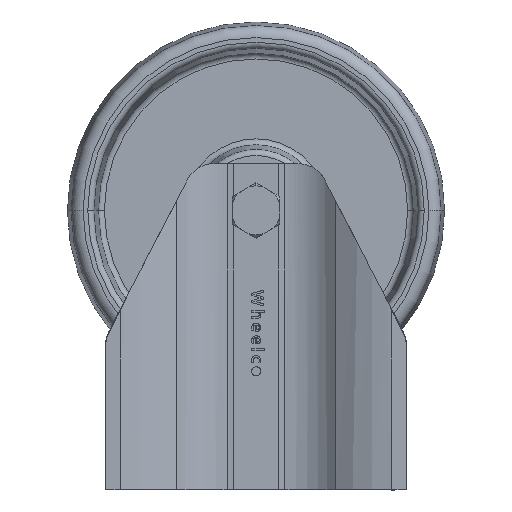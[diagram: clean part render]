
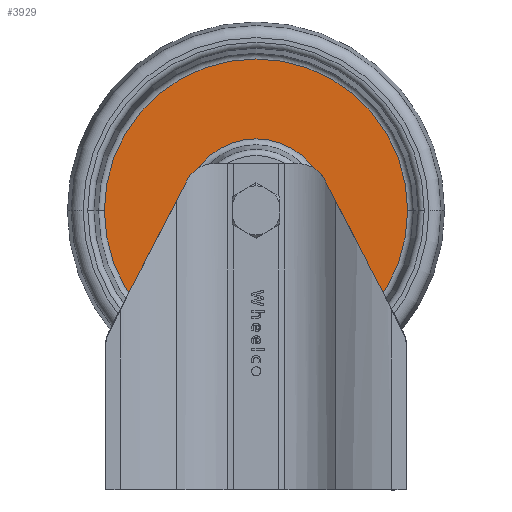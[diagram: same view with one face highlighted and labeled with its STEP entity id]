
A CAD part, top view. The second image highlights one B-rep face of the part: STEP entity #3929.
In plain terms, the highlighted planar face has unit normal (0, 0, 1) as drawn and (0, 1, 0) by its records, which use the part's own axes.
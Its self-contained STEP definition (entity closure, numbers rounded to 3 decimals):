
#520 = CARTESIAN_POINT ( 'NONE',  ( 0., 5., -23.778 ) ) ;
#1479 = DIRECTION ( 'NONE',  ( 0., 0., -1. ) ) ;
#1846 = VERTEX_POINT ( 'NONE', #16825 ) ;
#2732 = DIRECTION ( 'NONE',  ( 0., 0., -1. ) ) ;
#2831 = DIRECTION ( 'NONE',  ( 0., -1., 0. ) ) ;
#3073 = EDGE_CURVE ( 'NONE', #1846, #7667, #3872, .T. ) ;
#3334 = CIRCLE ( 'NONE', #13220, 50.249 ) ;
#3346 = CIRCLE ( 'NONE', #8608, 23.778 ) ;
#3471 = ORIENTED_EDGE ( 'NONE', *, *, #14203, .T. ) ;
#3853 = VERTEX_POINT ( 'NONE', #520 ) ;
#3872 = CIRCLE ( 'NONE', #16447, 50.249 ) ;
#3929 = ADVANCED_FACE ( 'NONE', ( #15170, #11946 ), #16641, .T. ) ;
#4906 = CARTESIAN_POINT ( 'NONE',  ( 0., 5., 23.778 ) ) ;
#6552 = CIRCLE ( 'NONE', #18079, 23.778 ) ;
#6878 = ORIENTED_EDGE ( 'NONE', *, *, #3073, .F. ) ;
#7667 = VERTEX_POINT ( 'NONE', #12204 ) ;
#7981 = CARTESIAN_POINT ( 'NONE',  ( 0., 5., 0. ) ) ;
#7985 = EDGE_CURVE ( 'NONE', #7667, #1846, #3334, .T. ) ;
#8012 = EDGE_LOOP ( 'NONE', ( #3471, #20111 ) ) ;
#8608 = AXIS2_PLACEMENT_3D ( 'NONE', #7981, #17182, #1479 ) ;
#9465 = CARTESIAN_POINT ( 'NONE',  ( 0., 5., 0. ) ) ;
#11215 = DIRECTION ( 'NONE',  ( 0., 0., -1. ) ) ;
#11946 = FACE_OUTER_BOUND ( 'NONE', #15378, .T. ) ;
#12148 = AXIS2_PLACEMENT_3D ( 'NONE', #18272, #13831, #16946 ) ;
#12204 = CARTESIAN_POINT ( 'NONE',  ( 0., 5., 50.249 ) ) ;
#12474 = DIRECTION ( 'NONE',  ( 0., -1., 0. ) ) ;
#13220 = AXIS2_PLACEMENT_3D ( 'NONE', #15797, #14244, #11215 ) ;
#13831 = DIRECTION ( 'NONE',  ( 0., 1., 0. ) ) ;
#14203 = EDGE_CURVE ( 'NONE', #3853, #17549, #6552, .T. ) ;
#14244 = DIRECTION ( 'NONE',  ( 0., -1., 0. ) ) ;
#15170 = FACE_BOUND ( 'NONE', #8012, .T. ) ;
#15378 = EDGE_LOOP ( 'NONE', ( #6878, #16778 ) ) ;
#15650 = CARTESIAN_POINT ( 'NONE',  ( 0., 5., 0. ) ) ;
#15797 = CARTESIAN_POINT ( 'NONE',  ( 0., 5., 0. ) ) ;
#16447 = AXIS2_PLACEMENT_3D ( 'NONE', #15650, #2831, #2732 ) ;
#16641 = PLANE ( 'NONE',  #12148 ) ;
#16778 = ORIENTED_EDGE ( 'NONE', *, *, #7985, .F. ) ;
#16825 = CARTESIAN_POINT ( 'NONE',  ( 0., 5., -50.249 ) ) ;
#16946 = DIRECTION ( 'NONE',  ( 0., 0., 1. ) ) ;
#17182 = DIRECTION ( 'NONE',  ( 0., -1., 0. ) ) ;
#17549 = VERTEX_POINT ( 'NONE', #4906 ) ;
#18079 = AXIS2_PLACEMENT_3D ( 'NONE', #9465, #12474, #18909 ) ;
#18272 = CARTESIAN_POINT ( 'NONE',  ( 23.778, 5., 0. ) ) ;
#18909 = DIRECTION ( 'NONE',  ( 0., 0., -1. ) ) ;
#19779 = EDGE_CURVE ( 'NONE', #17549, #3853, #3346, .T. ) ;
#20111 = ORIENTED_EDGE ( 'NONE', *, *, #19779, .T. ) ;
